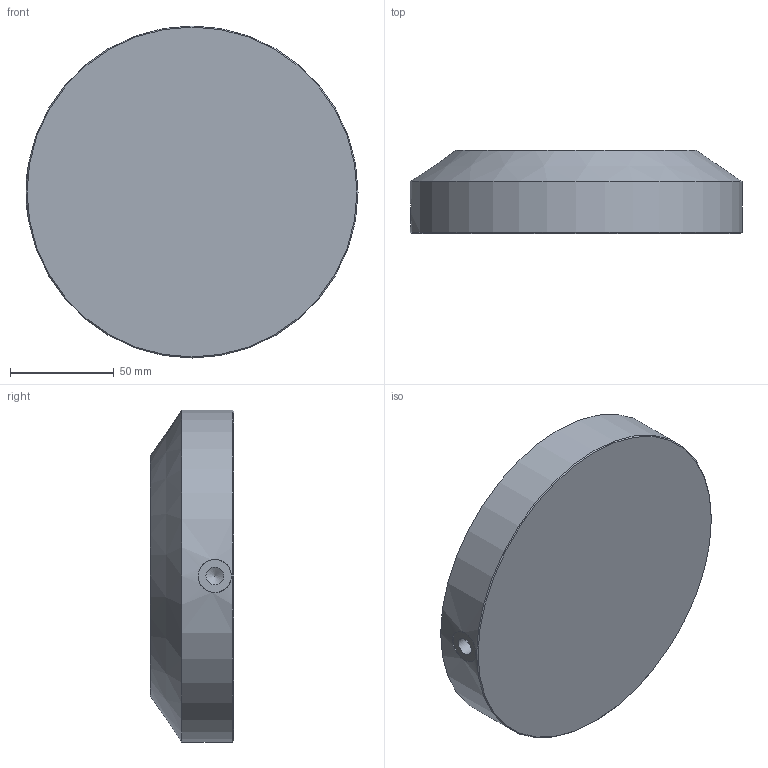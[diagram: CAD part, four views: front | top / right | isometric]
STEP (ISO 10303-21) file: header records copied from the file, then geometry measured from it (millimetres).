
FILE_DESCRIPTION(/* description */ ('HPC4.2 D160x40.0 A-OI12.5-I4G8-2M6-00'),/* implementation_level */ '2;1');
FILE_NAME(/* name */ 'C:\VAULT\ARCHIVIO\MAGER\PATTINI\STEP-PDF\WF10200P11000_HPC4.2 D160x40.0 A-OI12.5-I4G8-2M6-00.stp',/* time_stamp */ '2020-09-08T09:15:48+02:00',/* author */ ('roberto.cucit'),/* organization */ (''),/* preprocessor_version */ 'ST-DEVELOPER v17',/* originating_system */ 'Autodesk Inventor 2018',/* authorisation */ '');
FILE_SCHEMA (('CONFIG_CONTROL_DESIGN'));
Length unit declared in the file: millimetre
Products named in the file (1): WF10200P11000
Bounding box: 160 x 40 x 160 mm (x, y, z)
Volume: 723758.7 mm3; surface area: 57033.5 mm2
Topology: 2 solids, 2 shells, 23 faces, 63 edges, 46 vertices
Faces by surface type: cone 8, cylinder 8, plane 5, sphere 1, torus 1
Full cylindrical faces by diameter (mm): 4.917 x2, 8.566 x1, 12 x1, 16 x1, 22.5 x1, 27.4 x1, 160 x1
Entity records: 833 total; most frequent: CARTESIAN_POINT 165, DIRECTION 144, ORIENTED_EDGE 118, AXIS2_PLACEMENT_3D 64, EDGE_CURVE 59, VERTEX_POINT 46, CIRCLE 40, EDGE_LOOP 31
